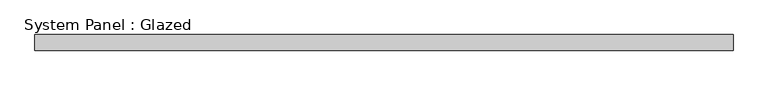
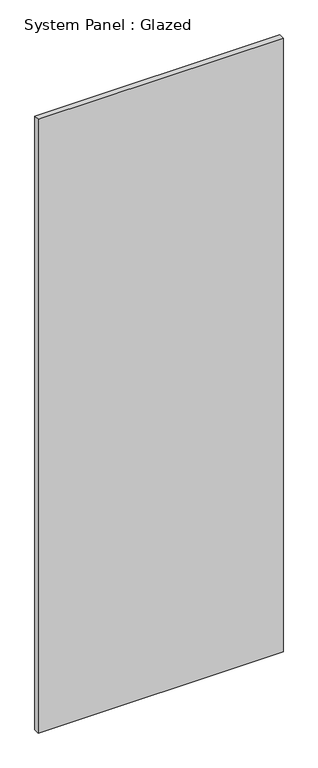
"""IFC4 building model written with IfcOpenShell, lengths in millimetres: plate geometry, System Panel : Glazed."""

from ifc_helpers import new_model, si_unit, origin, origin_with_axes, place, context, project, spatial, polyline, outline, extrude, source, transform, mapped, element, save


def system_panel_glazed_51061e86(model_context):
    return source(origin(), model_context, "Body", "SweptSolid", [
        extrude(outline(polyline([(557.2124999, -44.45), (-557.2124999, -44.45), (-557.2124999, -19.05), (557.2124999, -19.05), (557.2124999, -44.45)])), origin_with_axes(), (0.0, 0.0, 1.0), 2952.75),
    ])


if __name__ == "__main__":
    model = new_model("IFC4")
    model_context = context("Model", 3, world=origin())
    ifc_project = project(units=[si_unit("LENGTHUNIT", "METRE", prefix="MILLI")], contexts=[model_context])
    site = spatial("IfcSite", under=ifc_project)
    building = spatial("IfcBuilding", under=site)
    placement = place(None, origin())
    system_panel_glazed_shape = system_panel_glazed_51061e86(model_context)
    element("IfcPlate", 1, ObjectType="System Panel : Glazed", at=placement, inside=building, context=model_context, shape_type="MappedRepresentation", body=[
        mapped(system_panel_glazed_shape, transform((0.0, 0.0, 0.0), x_axis=(1.0, 0.0, 0.0), y_axis=(0.0, 1.0, 0.0), z_axis=(0.0, 0.0, 1.0))),
    ])
    save(model, "model.ifc")
